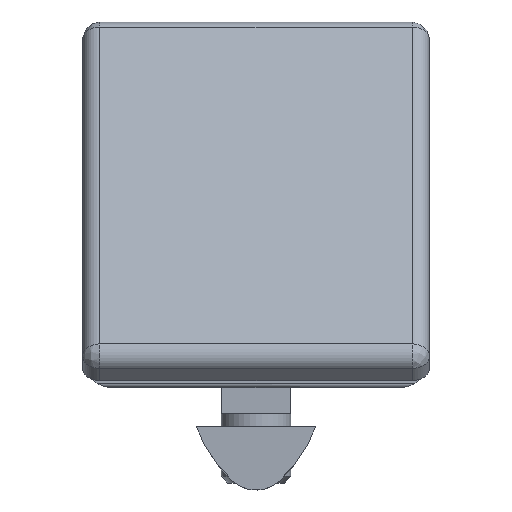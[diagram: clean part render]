
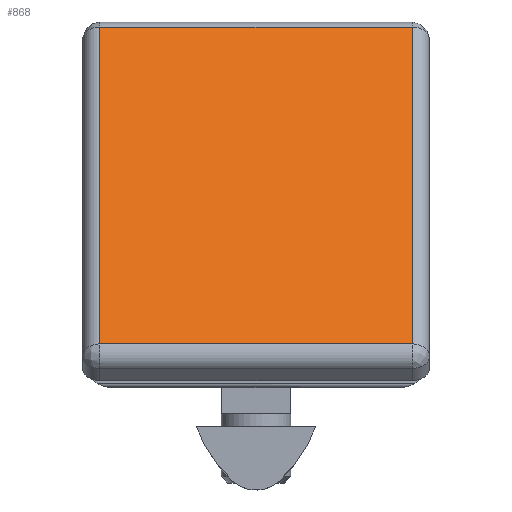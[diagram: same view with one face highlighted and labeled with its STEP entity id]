
A CAD part, front view. The second image highlights one B-rep face of the part: STEP entity #868.
In plain terms, the highlighted planar face has unit normal (0, -0.707, 0.707).
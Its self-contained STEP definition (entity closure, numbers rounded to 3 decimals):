
#74 = VECTOR ( 'NONE', #3759, 1000. ) ;
#179 = PLANE ( 'NONE',  #3968 ) ;
#339 = VECTOR ( 'NONE', #1180, 1000. ) ;
#487 = LINE ( 'NONE', #2138, #74 ) ;
#673 = CARTESIAN_POINT ( 'NONE',  ( 18., -41.6, -26.158 ) ) ;
#862 = CARTESIAN_POINT ( 'NONE',  ( 18., -5.057, 10.386 ) ) ;
#868 = ADVANCED_FACE ( 'NONE', ( #1495 ), #179, .T. ) ;
#1000 = EDGE_LOOP ( 'NONE', ( #4807, #4715, #3517, #3143 ) ) ;
#1065 = CARTESIAN_POINT ( 'NONE',  ( -18., -5.057, 10.386 ) ) ;
#1180 = DIRECTION ( 'NONE',  ( -1., 0., 0. ) ) ;
#1275 = CARTESIAN_POINT ( 'NONE',  ( -22., -5.057, 10.386 ) ) ;
#1328 = DIRECTION ( 'NONE',  ( 1., 0., 0. ) ) ;
#1495 = FACE_OUTER_BOUND ( 'NONE', #1000, .T. ) ;
#1534 = VECTOR ( 'NONE', #3267, 1000. ) ;
#1616 = LINE ( 'NONE', #2021, #1534 ) ;
#1678 = VERTEX_POINT ( 'NONE', #5143 ) ;
#1929 = DIRECTION ( 'NONE',  ( 0., 0.707, 0.707 ) ) ;
#2021 = CARTESIAN_POINT ( 'NONE',  ( 18., -44.428, -28.986 ) ) ;
#2138 = CARTESIAN_POINT ( 'NONE',  ( -18., -2.228, 13.214 ) ) ;
#2197 = EDGE_CURVE ( 'NONE', #4025, #3778, #3303, .T. ) ;
#2208 = EDGE_CURVE ( 'NONE', #1678, #4025, #487, .T. ) ;
#2563 = VECTOR ( 'NONE', #1328, 1000. ) ;
#3066 = CARTESIAN_POINT ( 'NONE',  ( 0., -23.328, -7.886 ) ) ;
#3143 = ORIENTED_EDGE ( 'NONE', *, *, #2208, .F. ) ;
#3267 = DIRECTION ( 'NONE',  ( 0., -0.707, -0.707 ) ) ;
#3303 = LINE ( 'NONE', #1275, #2563 ) ;
#3494 = DIRECTION ( 'NONE',  ( 0., -0.707, 0.707 ) ) ;
#3517 = ORIENTED_EDGE ( 'NONE', *, *, #2197, .F. ) ;
#3593 = EDGE_CURVE ( 'NONE', #3778, #4480, #1616, .T. ) ;
#3759 = DIRECTION ( 'NONE',  ( 0., 0.707, 0.707 ) ) ;
#3778 = VERTEX_POINT ( 'NONE', #862 ) ;
#3968 = AXIS2_PLACEMENT_3D ( 'NONE', #3066, #3494, #1929 ) ;
#4025 = VERTEX_POINT ( 'NONE', #1065 ) ;
#4038 = CARTESIAN_POINT ( 'NONE',  ( 22., -41.6, -26.158 ) ) ;
#4480 = VERTEX_POINT ( 'NONE', #673 ) ;
#4715 = ORIENTED_EDGE ( 'NONE', *, *, #3593, .F. ) ;
#4807 = ORIENTED_EDGE ( 'NONE', *, *, #4876, .F. ) ;
#4843 = LINE ( 'NONE', #4038, #339 ) ;
#4876 = EDGE_CURVE ( 'NONE', #4480, #1678, #4843, .T. ) ;
#5143 = CARTESIAN_POINT ( 'NONE',  ( -18., -41.6, -26.158 ) ) ;
